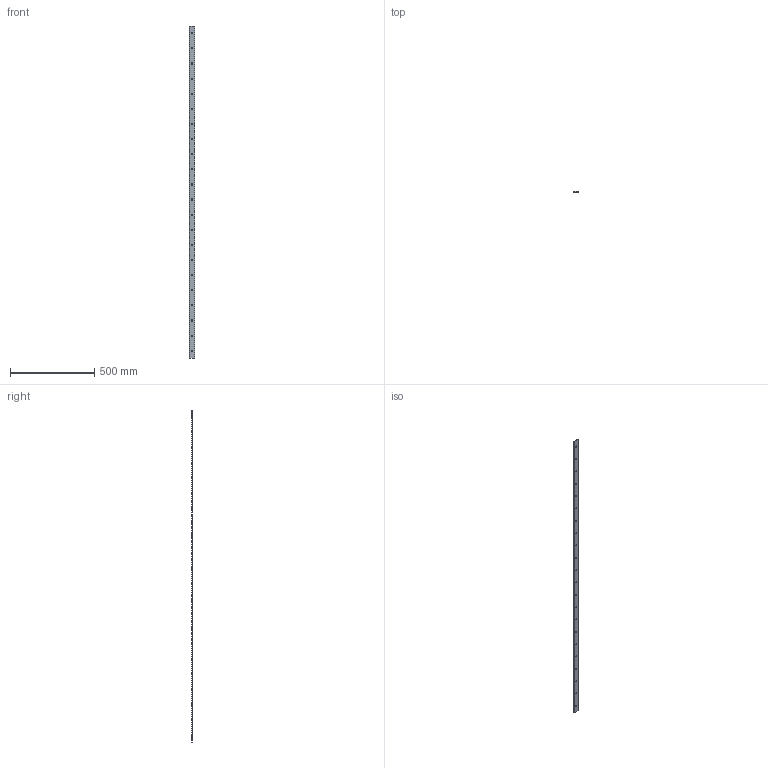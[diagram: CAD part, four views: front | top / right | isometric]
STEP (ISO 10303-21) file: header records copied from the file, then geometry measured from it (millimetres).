
FILE_DESCRIPTION(('STEP AP203'),'1');
FILE_NAME('slide_s35l1976p1.stp','2022-07-01T05:59:54',('TraceParts'),('TraceParts S.A.'),'Spatial InterOp 3D',' ',' ');
FILE_SCHEMA(('CONFIG_CONTROL_DESIGN'));
Length unit declared in the file: millimetre
Products named in the file (1): 1
Bounding box: 34.68 x 4.78 x 1976 mm (x, y, z)
Volume: 300880.4 mm3; surface area: 145592.7 mm2
Topology: 1 solids, 1 shells, 56 faces, 162 edges, 108 vertices
Faces by surface type: cylinder 48, plane 8
Entity records: 2034 total; most frequent: DIRECTION 372, CARTESIAN_POINT 327, ORIENTED_EDGE 324, EDGE_CURVE 162, AXIS2_PLACEMENT_3D 153, VERTEX_POINT 108, EDGE_LOOP 100, CIRCLE 96
